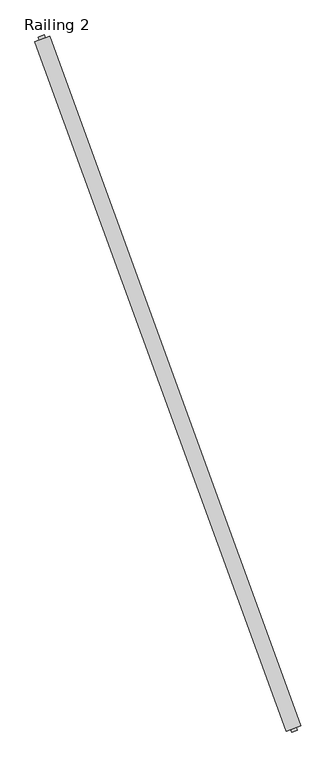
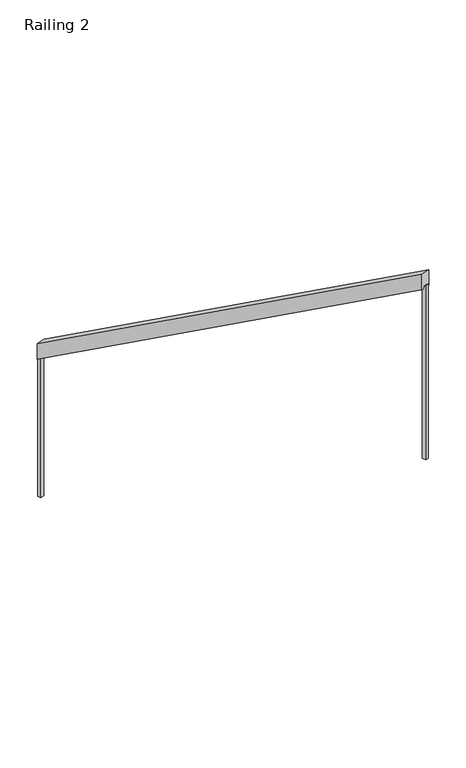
"""IFC4 building model written with IfcOpenShell, lengths in millimetres: railing geometry, Railing 2."""

from ifc_helpers import new_model, si_unit, frame, origin, place, context, project, spatial, polyline, outline, extrude, source, transform, mapped, element, save


def railing_2_688acb37(model_context):
    return source(origin(), model_context, "Body", "SweptSolid", [
        extrude(outline(polyline([(47.1714286, -76.2), (0.0, 0.0), (2822.6489223, 0.0), (2869.8203509, -76.2), (47.1714286, -76.2)])), frame((34277.4295922, 15026.748603, 8596.0951824), z_axis=(0.939692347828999, 0.3420208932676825, 0.0), x_axis=(0.2908084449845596, -0.7989876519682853, 0.5263546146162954)), (0.0, 0.0, 1.0), 50.8),
        extrude(outline(polyline([(106.1904762, 0.0), (1109.5142857, 0.0), (1109.5142857, -20.0), (93.8095238, -20.0), (106.1904762, 0.0)])), frame((35109.3307893, 12786.1510135, 10195.2285714), z_axis=(0.9396923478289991, 0.3420208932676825, 0.0), x_axis=(0.0, 0.0, -1.0)), (0.0, 0.0, 1.0), 20.0),
        extrude(outline(polyline([(106.1904762, 0.0), (923.8, 0.0), (923.8, -20.0000001), (93.8095238, -20.0000001), (106.1904762, 0.0)])), frame((34288.4806454, 15041.4126483, 8709.5142857), z_axis=(0.9396923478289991, 0.3420208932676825, 0.0), x_axis=(0.0, 0.0, -1.0)), (0.0, 0.0, 1.0), 20.0),
    ])


if __name__ == "__main__":
    model = new_model("IFC4")
    model_context = context("Model", 3, world=origin())
    ifc_project = project(units=[si_unit("LENGTHUNIT", "METRE", prefix="MILLI")], contexts=[model_context])
    site = spatial("IfcSite", under=ifc_project)
    building = spatial("IfcBuilding", under=site)
    placement = place(None, origin())
    railing_2_shape = railing_2_688acb37(model_context)
    element("IfcRailing", 1, ObjectType="Railing 2", at=placement, inside=building, context=model_context, shape_type="MappedRepresentation", body=[
        mapped(railing_2_shape, transform((0.0, 0.0, 0.0), x_axis=(1.0, 0.0, 0.0), y_axis=(0.0, 1.0, 0.0), z_axis=(0.0, 0.0, 1.0))),
    ])
    save(model, "model.ifc")
